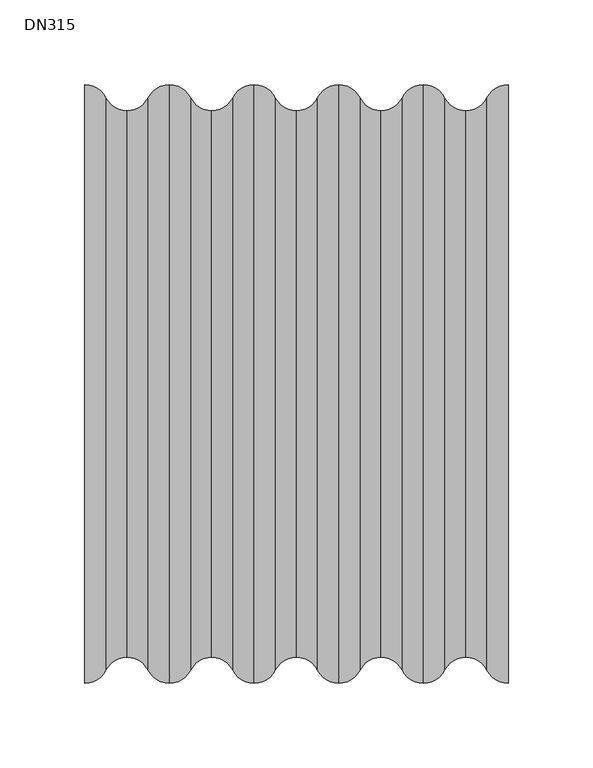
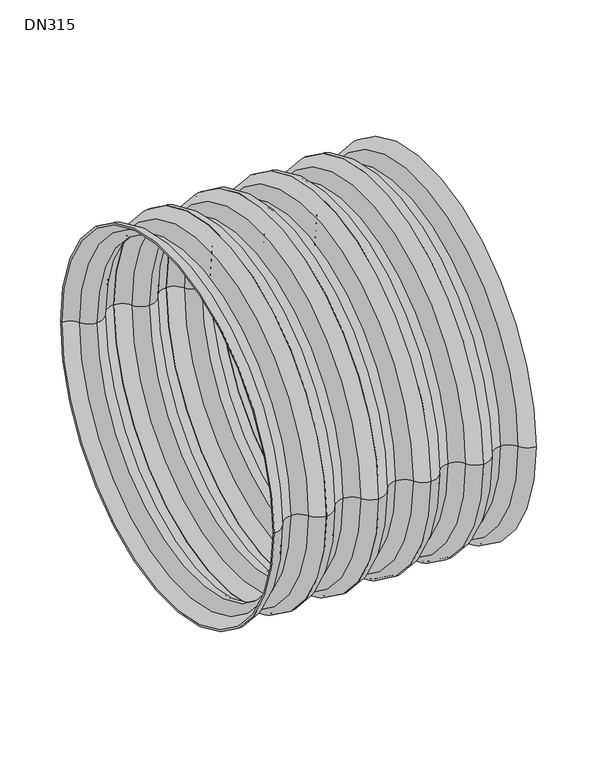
"""IFC4 building model written with IfcOpenShell, lengths in millimetres: pipe fitting geometry, NLRS-90-PIF_Z_DO_NOT_USE_Wavin PVC Buitenriolering Schachtbuis (Nested) : DN315."""

from ifc_helpers import new_model, si_unit, point, frame, origin, place, context, project, spatial, circle_curve, ellipse_curve, trimmed, source, transform, mapped, element, save
from ifc_brep_helpers import plane_surface, revolved_surface, advanced_brep


def dn315_d1f62dcb(model_context):
    return source(origin(), model_context, "Body", "AdvancedBrep", [
        advanced_brep(
        [(300.0, -176.5, 0.0), (300.0, 176.5, 0.0), (312.5, 168.85, 0.0), (312.5, -168.85, 0.0), (300.0, -174.8, 0.0), (300.0, 174.8, 0.0), (312.5, -167.15, 0.0), (312.5, 167.15, 0.0), (325.0, -159.5, 0.0), (325.0, 159.5, 0.0), (337.5, -167.15, 0.0), (337.5, 167.15, 0.0), (350.0, -174.8, 0.0), (350.0, 174.8, 0.0), (350.0, -176.5, 0.0), (350.0, 176.5, 0.0), (337.5, -168.85, 0.0), (337.5, 168.85, 0.0), (325.0, -161.2, 0.0), (325.0, 161.2, 0.0)],
        [
            (0, 1, circle_curve(frame((300.0, 0.0, 0.0), z_axis=(1.0, 0.0, 0.0), x_axis=(0.0, 1.0, 0.0)), 176.5)),
            (1, 2, circle_curve(frame((300.0, 162.4625817, 0.0), z_axis=(0.0, 0.0, -1.0), x_axis=(1.0, 0.0, 0.0)), 14.0374183)),
            (2, 3, circle_curve(frame((312.5, 0.0, 0.0), z_axis=(-1.0, 0.0, 0.0), x_axis=(0.0, 1.0, 0.0)), 168.85)),
            (3, 0, circle_curve(frame((300.0, -162.4625817, 0.0), z_axis=(0.0, 0.0, -1.0), x_axis=(1.0, 0.0, 0.0)), 14.0374183)),
            (1, 0, circle_curve(frame((300.0, 0.0, 0.0), z_axis=(1.0, 0.0, 0.0), x_axis=(0.0, 1.0, 0.0)), 176.5)),
            (3, 2, circle_curve(frame((312.5, 0.0, 0.0), z_axis=(-1.0, 0.0, 0.0), x_axis=(0.0, 1.0, 0.0)), 168.85)),
            (4, 5, circle_curve(frame((300.0, 0.0, 0.0), z_axis=(1.0, 0.0, 0.0), x_axis=(0.0, 1.0, 0.0)), 174.8)),
            (5, 1),
            (0, 4),
            (5, 4, circle_curve(frame((300.0, 0.0, 0.0), z_axis=(1.0, 0.0, 0.0), x_axis=(0.0, 1.0, 0.0)), 174.8)),
            (6, 7, circle_curve(frame((312.5, 0.0, 0.0), z_axis=(1.0, 0.0, 0.0), x_axis=(0.0, 1.0, 0.0)), 167.15)),
            (7, 5, circle_curve(frame((300.0, 160.7625817, 0.0), z_axis=(0.0, 0.0, 1.0), x_axis=(1.0, 0.0, 0.0)), 14.0374183)),
            (4, 6, circle_curve(frame((300.0, -160.7625817, 0.0), z_axis=(0.0, 0.0, 1.0), x_axis=(1.0, 0.0, 0.0)), 14.0374183)),
            (7, 6, circle_curve(frame((312.5, 0.0, 0.0), z_axis=(1.0, 0.0, 0.0), x_axis=(0.0, 1.0, 0.0)), 167.15)),
            (8, 9, circle_curve(frame((325.0, 0.0, 0.0), z_axis=(1.0, 0.0, 0.0), x_axis=(0.0, 1.0, 0.0)), 159.5)),
            (9, 7, circle_curve(frame((325.0, 173.5374183, 0.0), z_axis=(0.0, 0.0, -1.0), x_axis=(1.0, 0.0, 0.0)), 14.0374183)),
            (6, 8, circle_curve(frame((325.0, -173.5374183, 0.0), z_axis=(0.0, 0.0, -1.0), x_axis=(1.0, 0.0, 0.0)), 14.0374183)),
            (9, 8, circle_curve(frame((325.0, 0.0, 0.0), z_axis=(1.0, 0.0, 0.0), x_axis=(0.0, 1.0, 0.0)), 159.5)),
            (10, 11, circle_curve(frame((337.5, 0.0, 0.0), z_axis=(1.0, 0.0, 0.0), x_axis=(0.0, 1.0, 0.0)), 167.15)),
            (11, 9, circle_curve(frame((325.0, 173.5374183, 0.0), z_axis=(0.0, 0.0, -1.0), x_axis=(1.0, 0.0, 0.0)), 14.0374183)),
            (8, 10, circle_curve(frame((325.0, -173.5374183, 0.0), z_axis=(0.0, 0.0, -1.0), x_axis=(1.0, 0.0, 0.0)), 14.0374183)),
            (11, 10, circle_curve(frame((337.5, 0.0, 0.0), z_axis=(1.0, 0.0, 0.0), x_axis=(0.0, 1.0, 0.0)), 167.15)),
            (12, 13, circle_curve(frame((350.0, 0.0, 0.0), z_axis=(1.0, 0.0, 0.0), x_axis=(0.0, 1.0, 0.0)), 174.8)),
            (13, 11, circle_curve(frame((350.0, 160.7625817, 0.0), z_axis=(0.0, 0.0, 1.0), x_axis=(1.0, 0.0, 0.0)), 14.0374183)),
            (10, 12, circle_curve(frame((350.0, -160.7625817, 0.0), z_axis=(0.0, 0.0, 1.0), x_axis=(1.0, 0.0, 0.0)), 14.0374183)),
            (13, 12, circle_curve(frame((350.0, 0.0, 0.0), z_axis=(1.0, 0.0, 0.0), x_axis=(0.0, 1.0, 0.0)), 174.8)),
            (14, 15, circle_curve(frame((350.0, 0.0, 0.0), z_axis=(1.0, 0.0, 0.0), x_axis=(0.0, 1.0, 0.0)), 176.5)),
            (15, 13),
            (12, 14),
            (15, 14, circle_curve(frame((350.0, 0.0, 0.0), z_axis=(1.0, 0.0, 0.0), x_axis=(0.0, 1.0, 0.0)), 176.5)),
            (16, 17, circle_curve(frame((337.5, 0.0, 0.0), z_axis=(1.0, 0.0, 0.0), x_axis=(0.0, 1.0, 0.0)), 168.85)),
            (17, 15, circle_curve(frame((350.0, 162.4625817, 0.0), z_axis=(0.0, 0.0, -1.0), x_axis=(1.0, 0.0, 0.0)), 14.0374183)),
            (14, 16, circle_curve(frame((350.0, -162.4625817, 0.0), z_axis=(0.0, 0.0, -1.0), x_axis=(1.0, 0.0, 0.0)), 14.0374183)),
            (17, 16, circle_curve(frame((337.5, 0.0, 0.0), z_axis=(1.0, 0.0, 0.0), x_axis=(0.0, 1.0, 0.0)), 168.85)),
            (18, 19, circle_curve(frame((325.0, 0.0, 0.0), z_axis=(1.0, 0.0, 0.0), x_axis=(0.0, 1.0, 0.0)), 161.2)),
            (19, 17, circle_curve(frame((325.0, 175.2374183, 0.0), z_axis=(0.0, 0.0, 1.0), x_axis=(1.0, 0.0, 0.0)), 14.0374183)),
            (16, 18, circle_curve(frame((325.0, -175.2374183, 0.0), z_axis=(0.0, 0.0, 1.0), x_axis=(1.0, 0.0, 0.0)), 14.0374183)),
            (19, 18, circle_curve(frame((325.0, 0.0, 0.0), z_axis=(1.0, 0.0, 0.0), x_axis=(0.0, 1.0, 0.0)), 161.2)),
            (2, 19, circle_curve(frame((325.0, 175.2374183, 0.0), z_axis=(0.0, 0.0, 1.0), x_axis=(1.0, 0.0, 0.0)), 14.0374183)),
            (18, 3, circle_curve(frame((325.0, -175.2374183, 0.0), z_axis=(0.0, 0.0, 1.0), x_axis=(1.0, 0.0, 0.0)), 14.0374183)),
        ],
        [
            revolved_surface(trimmed(ellipse_curve(frame((300.0, 162.4625817, 0.0), z_axis=(0.0, 0.0, 1.0), x_axis=(1.0, 0.0, 0.0)), 14.0374183, 14.0374183), [point((312.5, 168.85, 0.0))], [point((300.0, 176.5, 0.0))], True, "CARTESIAN"), (250.0, 0.0, 0.0), (-1.0, 0.0, 0.0)),
            plane_surface(frame((300.0, 0.0, 0.0), z_axis=(-1.0, 0.0, 0.0), x_axis=(0.0, 1.0, 0.0))),
            revolved_surface(trimmed(ellipse_curve(frame((300.0, 160.7625817, 0.0), z_axis=(0.0, 0.0, -1.0), x_axis=(1.0, 0.0, 0.0)), 14.0374183, 14.0374183), [point((300.0, 174.8, 0.0))], [point((312.5, 167.15, 0.0))], True, "CARTESIAN"), (250.0, 0.0, 0.0), (-1.0, 0.0, 0.0)),
            revolved_surface(trimmed(ellipse_curve(frame((325.0, 173.5374183, 0.0), z_axis=(0.0, 0.0, 1.0), x_axis=(1.0, 0.0, 0.0)), 14.0374183, 14.0374183), [point((312.5, 167.15, 0.0))], [point((325.0, 159.5, 0.0))], True, "CARTESIAN"), (250.0, 0.0, 0.0), (-1.0, 0.0, 0.0)),
            revolved_surface(trimmed(ellipse_curve(frame((325.0, 173.5374183, 0.0), z_axis=(0.0, 0.0, 1.0), x_axis=(1.0, 0.0, 0.0)), 14.0374183, 14.0374183), [point((325.0, 159.5, 0.0))], [point((337.5, 167.15, 0.0))], True, "CARTESIAN"), (250.0, 0.0, 0.0), (-1.0, 0.0, 0.0)),
            revolved_surface(trimmed(ellipse_curve(frame((350.0, 160.7625817, 0.0), z_axis=(0.0, 0.0, -1.0), x_axis=(1.0, 0.0, 0.0)), 14.0374183, 14.0374183), [point((337.5, 167.15, 0.0))], [point((350.0, 174.8, 0.0))], True, "CARTESIAN"), (250.0, 0.0, 0.0), (-1.0, 0.0, 0.0)),
            plane_surface(frame((350.0, 0.0, 0.0), z_axis=(1.0, 0.0, 0.0), x_axis=(0.0, 1.0, 0.0))),
            revolved_surface(trimmed(ellipse_curve(frame((350.0, 162.4625817, 0.0), z_axis=(0.0, 0.0, 1.0), x_axis=(1.0, 0.0, 0.0)), 14.0374183, 14.0374183), [point((350.0, 176.5, 0.0))], [point((337.5, 168.85, 0.0))], True, "CARTESIAN"), (250.0, 0.0, 0.0), (-1.0, 0.0, 0.0)),
            revolved_surface(trimmed(ellipse_curve(frame((325.0, 175.2374183, 0.0), z_axis=(0.0, 0.0, -1.0), x_axis=(1.0, 0.0, 0.0)), 14.0374183, 14.0374183), [point((337.5, 168.85, 0.0))], [point((325.0, 161.2, 0.0))], True, "CARTESIAN"), (250.0, 0.0, 0.0), (-1.0, 0.0, 0.0)),
            revolved_surface(trimmed(ellipse_curve(frame((325.0, 175.2374183, 0.0), z_axis=(0.0, 0.0, -1.0), x_axis=(1.0, 0.0, 0.0)), 14.0374183, 14.0374183), [point((325.0, 161.2, 0.0))], [point((312.5, 168.85, 0.0))], True, "CARTESIAN"), (250.0, 0.0, 0.0), (-1.0, 0.0, 0.0)),
        ],
        [
            (0, [[1, 2, 3, 4]]),
            (0, [[5, -4, 6, -2]]),
            (1, [[7, 8, -1, 9]]),
            (1, [[10, -9, -5, -8]]),
            (2, [[11, 12, -7, 13]]),
            (2, [[14, -13, -10, -12]]),
            (3, [[15, 16, -11, 17]]),
            (3, [[18, -17, -14, -16]]),
            (4, [[19, 20, -15, 21]]),
            (4, [[22, -21, -18, -20]]),
            (5, [[23, 24, -19, 25]]),
            (5, [[26, -25, -22, -24]]),
            (6, [[27, 28, -23, 29]]),
            (6, [[30, -29, -26, -28]]),
            (7, [[31, 32, -27, 33]]),
            (7, [[34, -33, -30, -32]]),
            (8, [[35, 36, -31, 37]]),
            (8, [[38, -37, -34, -36]]),
            (9, [[-3, 39, -35, 40]]),
            (9, [[-6, -40, -38, -39]]),
        ],
    ),
        advanced_brep(
        [(250.0, -176.5, 0.0), (250.0, 176.5, 0.0), (262.5, 168.85, 0.0), (262.5, -168.85, 0.0), (250.0, -174.8, 0.0), (250.0, 174.8, 0.0), (262.5, -167.15, 0.0), (262.5, 167.15, 0.0), (275.0, -159.5, 0.0), (275.0, 159.5, 0.0), (287.5, -167.15, 0.0), (287.5, 167.15, 0.0), (300.0, -174.8, 0.0), (300.0, 174.8, 0.0), (300.0, -176.5, 0.0), (300.0, 176.5, 0.0), (287.5, -168.85, 0.0), (287.5, 168.85, 0.0), (275.0, -161.2, 0.0), (275.0, 161.2, 0.0)],
        [
            (0, 1, circle_curve(frame((250.0, 0.0, 0.0), z_axis=(1.0, 0.0, 0.0), x_axis=(0.0, 1.0, 0.0)), 176.5)),
            (1, 2, circle_curve(frame((250.0, 162.4625817, 0.0), z_axis=(0.0, 0.0, -1.0), x_axis=(1.0, 0.0, 0.0)), 14.0374183)),
            (2, 3, circle_curve(frame((262.5, 0.0, 0.0), z_axis=(-1.0, 0.0, 0.0), x_axis=(0.0, 1.0, 0.0)), 168.85)),
            (3, 0, circle_curve(frame((250.0, -162.4625817, 0.0), z_axis=(0.0, 0.0, -1.0), x_axis=(1.0, 0.0, 0.0)), 14.0374183)),
            (1, 0, circle_curve(frame((250.0, 0.0, 0.0), z_axis=(1.0, 0.0, 0.0), x_axis=(0.0, 1.0, 0.0)), 176.5)),
            (3, 2, circle_curve(frame((262.5, 0.0, 0.0), z_axis=(-1.0, 0.0, 0.0), x_axis=(0.0, 1.0, 0.0)), 168.85)),
            (4, 5, circle_curve(frame((250.0, 0.0, 0.0), z_axis=(1.0, 0.0, 0.0), x_axis=(0.0, 1.0, 0.0)), 174.8)),
            (5, 1),
            (0, 4),
            (5, 4, circle_curve(frame((250.0, 0.0, 0.0), z_axis=(1.0, 0.0, 0.0), x_axis=(0.0, 1.0, 0.0)), 174.8)),
            (6, 7, circle_curve(frame((262.5, 0.0, 0.0), z_axis=(1.0, 0.0, 0.0), x_axis=(0.0, 1.0, 0.0)), 167.15)),
            (7, 5, circle_curve(frame((250.0, 160.7625817, 0.0), z_axis=(0.0, 0.0, 1.0), x_axis=(1.0, 0.0, 0.0)), 14.0374183)),
            (4, 6, circle_curve(frame((250.0, -160.7625817, 0.0), z_axis=(0.0, 0.0, 1.0), x_axis=(1.0, 0.0, 0.0)), 14.0374183)),
            (7, 6, circle_curve(frame((262.5, 0.0, 0.0), z_axis=(1.0, 0.0, 0.0), x_axis=(0.0, 1.0, 0.0)), 167.15)),
            (8, 9, circle_curve(frame((275.0, 0.0, 0.0), z_axis=(1.0, 0.0, 0.0), x_axis=(0.0, 1.0, 0.0)), 159.5)),
            (9, 7, circle_curve(frame((275.0, 173.5374183, 0.0), z_axis=(0.0, 0.0, -1.0), x_axis=(1.0, 0.0, 0.0)), 14.0374183)),
            (6, 8, circle_curve(frame((275.0, -173.5374183, 0.0), z_axis=(0.0, 0.0, -1.0), x_axis=(1.0, 0.0, 0.0)), 14.0374183)),
            (9, 8, circle_curve(frame((275.0, 0.0, 0.0), z_axis=(1.0, 0.0, 0.0), x_axis=(0.0, 1.0, 0.0)), 159.5)),
            (10, 11, circle_curve(frame((287.5, 0.0, 0.0), z_axis=(1.0, 0.0, 0.0), x_axis=(0.0, 1.0, 0.0)), 167.15)),
            (11, 9, circle_curve(frame((275.0, 173.5374183, 0.0), z_axis=(0.0, 0.0, -1.0), x_axis=(1.0, 0.0, 0.0)), 14.0374183)),
            (8, 10, circle_curve(frame((275.0, -173.5374183, 0.0), z_axis=(0.0, 0.0, -1.0), x_axis=(1.0, 0.0, 0.0)), 14.0374183)),
            (11, 10, circle_curve(frame((287.5, 0.0, 0.0), z_axis=(1.0, 0.0, 0.0), x_axis=(0.0, 1.0, 0.0)), 167.15)),
            (12, 13, circle_curve(frame((300.0, 0.0, 0.0), z_axis=(1.0, 0.0, 0.0), x_axis=(0.0, 1.0, 0.0)), 174.8)),
            (13, 11, circle_curve(frame((300.0, 160.7625817, 0.0), z_axis=(0.0, 0.0, 1.0), x_axis=(1.0, 0.0, 0.0)), 14.0374183)),
            (10, 12, circle_curve(frame((300.0, -160.7625817, 0.0), z_axis=(0.0, 0.0, 1.0), x_axis=(1.0, 0.0, 0.0)), 14.0374183)),
            (13, 12, circle_curve(frame((300.0, 0.0, 0.0), z_axis=(1.0, 0.0, 0.0), x_axis=(0.0, 1.0, 0.0)), 174.8)),
            (14, 15, circle_curve(frame((300.0, 0.0, 0.0), z_axis=(1.0, 0.0, 0.0), x_axis=(0.0, 1.0, 0.0)), 176.5)),
            (15, 13),
            (12, 14),
            (15, 14, circle_curve(frame((300.0, 0.0, 0.0), z_axis=(1.0, 0.0, 0.0), x_axis=(0.0, 1.0, 0.0)), 176.5)),
            (16, 17, circle_curve(frame((287.5, 0.0, 0.0), z_axis=(1.0, 0.0, 0.0), x_axis=(0.0, 1.0, 0.0)), 168.85)),
            (17, 15, circle_curve(frame((300.0, 162.4625817, 0.0), z_axis=(0.0, 0.0, -1.0), x_axis=(1.0, 0.0, 0.0)), 14.0374183)),
            (14, 16, circle_curve(frame((300.0, -162.4625817, 0.0), z_axis=(0.0, 0.0, -1.0), x_axis=(1.0, 0.0, 0.0)), 14.0374183)),
            (17, 16, circle_curve(frame((287.5, 0.0, 0.0), z_axis=(1.0, 0.0, 0.0), x_axis=(0.0, 1.0, 0.0)), 168.85)),
            (18, 19, circle_curve(frame((275.0, 0.0, 0.0), z_axis=(1.0, 0.0, 0.0), x_axis=(0.0, 1.0, 0.0)), 161.2)),
            (19, 17, circle_curve(frame((275.0, 175.2374183, 0.0), z_axis=(0.0, 0.0, 1.0), x_axis=(1.0, 0.0, 0.0)), 14.0374183)),
            (16, 18, circle_curve(frame((275.0, -175.2374183, 0.0), z_axis=(0.0, 0.0, 1.0), x_axis=(1.0, 0.0, 0.0)), 14.0374183)),
            (19, 18, circle_curve(frame((275.0, 0.0, 0.0), z_axis=(1.0, 0.0, 0.0), x_axis=(0.0, 1.0, 0.0)), 161.2)),
            (2, 19, circle_curve(frame((275.0, 175.2374183, 0.0), z_axis=(0.0, 0.0, 1.0), x_axis=(1.0, 0.0, 0.0)), 14.0374183)),
            (18, 3, circle_curve(frame((275.0, -175.2374183, 0.0), z_axis=(0.0, 0.0, 1.0), x_axis=(1.0, 0.0, 0.0)), 14.0374183)),
        ],
        [
            revolved_surface(trimmed(ellipse_curve(frame((250.0, 162.4625817, 0.0), z_axis=(0.0, 0.0, 1.0), x_axis=(1.0, 0.0, 0.0)), 14.0374183, 14.0374183), [point((262.5, 168.85, 0.0))], [point((250.0, 176.5, 0.0))], True, "CARTESIAN"), (200.0, 0.0, 0.0), (-1.0, 0.0, 0.0)),
            plane_surface(frame((250.0, 0.0, 0.0), z_axis=(-1.0, 0.0, 0.0), x_axis=(0.0, 1.0, 0.0))),
            revolved_surface(trimmed(ellipse_curve(frame((250.0, 160.7625817, 0.0), z_axis=(0.0, 0.0, -1.0), x_axis=(1.0, 0.0, 0.0)), 14.0374183, 14.0374183), [point((250.0, 174.8, 0.0))], [point((262.5, 167.15, 0.0))], True, "CARTESIAN"), (200.0, 0.0, 0.0), (-1.0, 0.0, 0.0)),
            revolved_surface(trimmed(ellipse_curve(frame((275.0, 173.5374183, 0.0), z_axis=(0.0, 0.0, 1.0), x_axis=(1.0, 0.0, 0.0)), 14.0374183, 14.0374183), [point((262.5, 167.15, 0.0))], [point((275.0, 159.5, 0.0))], True, "CARTESIAN"), (200.0, 0.0, 0.0), (-1.0, 0.0, 0.0)),
            revolved_surface(trimmed(ellipse_curve(frame((275.0, 173.5374183, 0.0), z_axis=(0.0, 0.0, 1.0), x_axis=(1.0, 0.0, 0.0)), 14.0374183, 14.0374183), [point((275.0, 159.5, 0.0))], [point((287.5, 167.15, 0.0))], True, "CARTESIAN"), (200.0, 0.0, 0.0), (-1.0, 0.0, 0.0)),
            revolved_surface(trimmed(ellipse_curve(frame((300.0, 160.7625817, 0.0), z_axis=(0.0, 0.0, -1.0), x_axis=(1.0, 0.0, 0.0)), 14.0374183, 14.0374183), [point((287.5, 167.15, 0.0))], [point((300.0, 174.8, 0.0))], True, "CARTESIAN"), (200.0, 0.0, 0.0), (-1.0, 0.0, 0.0)),
            plane_surface(frame((300.0, 0.0, 0.0), z_axis=(1.0, 0.0, 0.0), x_axis=(0.0, 1.0, 0.0))),
            revolved_surface(trimmed(ellipse_curve(frame((300.0, 162.4625817, 0.0), z_axis=(0.0, 0.0, 1.0), x_axis=(1.0, 0.0, 0.0)), 14.0374183, 14.0374183), [point((300.0, 176.5, 0.0))], [point((287.5, 168.85, 0.0))], True, "CARTESIAN"), (200.0, 0.0, 0.0), (-1.0, 0.0, 0.0)),
            revolved_surface(trimmed(ellipse_curve(frame((275.0, 175.2374183, 0.0), z_axis=(0.0, 0.0, -1.0), x_axis=(1.0, 0.0, 0.0)), 14.0374183, 14.0374183), [point((287.5, 168.85, 0.0))], [point((275.0, 161.2, 0.0))], True, "CARTESIAN"), (200.0, 0.0, 0.0), (-1.0, 0.0, 0.0)),
            revolved_surface(trimmed(ellipse_curve(frame((275.0, 175.2374183, 0.0), z_axis=(0.0, 0.0, -1.0), x_axis=(1.0, 0.0, 0.0)), 14.0374183, 14.0374183), [point((275.0, 161.2, 0.0))], [point((262.5, 168.85, 0.0))], True, "CARTESIAN"), (200.0, 0.0, 0.0), (-1.0, 0.0, 0.0)),
        ],
        [
            (0, [[1, 2, 3, 4]]),
            (0, [[5, -4, 6, -2]]),
            (1, [[7, 8, -1, 9]]),
            (1, [[10, -9, -5, -8]]),
            (2, [[11, 12, -7, 13]]),
            (2, [[14, -13, -10, -12]]),
            (3, [[15, 16, -11, 17]]),
            (3, [[18, -17, -14, -16]]),
            (4, [[19, 20, -15, 21]]),
            (4, [[22, -21, -18, -20]]),
            (5, [[23, 24, -19, 25]]),
            (5, [[26, -25, -22, -24]]),
            (6, [[27, 28, -23, 29]]),
            (6, [[30, -29, -26, -28]]),
            (7, [[31, 32, -27, 33]]),
            (7, [[34, -33, -30, -32]]),
            (8, [[35, 36, -31, 37]]),
            (8, [[38, -37, -34, -36]]),
            (9, [[-3, 39, -35, 40]]),
            (9, [[-6, -40, -38, -39]]),
        ],
    ),
        advanced_brep(
        [(200.0, -176.5, 0.0), (200.0, 176.5, 0.0), (212.5, 168.85, 0.0), (212.5, -168.85, 0.0), (200.0, -174.8, 0.0), (200.0, 174.8, 0.0), (212.5, -167.15, 0.0), (212.5, 167.15, 0.0), (225.0, -159.5, 0.0), (225.0, 159.5, 0.0), (237.5, -167.15, 0.0), (237.5, 167.15, 0.0), (250.0, -174.8, 0.0), (250.0, 174.8, 0.0), (250.0, -176.5, 0.0), (250.0, 176.5, 0.0), (237.5, -168.85, 0.0), (237.5, 168.85, 0.0), (225.0, -161.2, 0.0), (225.0, 161.2, 0.0)],
        [
            (0, 1, circle_curve(frame((200.0, 0.0, 0.0), z_axis=(1.0, 0.0, 0.0), x_axis=(0.0, 1.0, 0.0)), 176.5)),
            (1, 2, circle_curve(frame((200.0, 162.4625817, 0.0), z_axis=(0.0, 0.0, -1.0), x_axis=(1.0, 0.0, 0.0)), 14.0374183)),
            (2, 3, circle_curve(frame((212.5, 0.0, 0.0), z_axis=(-1.0, 0.0, 0.0), x_axis=(0.0, 1.0, 0.0)), 168.85)),
            (3, 0, circle_curve(frame((200.0, -162.4625817, 0.0), z_axis=(0.0, 0.0, -1.0), x_axis=(1.0, 0.0, 0.0)), 14.0374183)),
            (1, 0, circle_curve(frame((200.0, 0.0, 0.0), z_axis=(1.0, 0.0, 0.0), x_axis=(0.0, 1.0, 0.0)), 176.5)),
            (3, 2, circle_curve(frame((212.5, 0.0, 0.0), z_axis=(-1.0, 0.0, 0.0), x_axis=(0.0, 1.0, 0.0)), 168.85)),
            (4, 5, circle_curve(frame((200.0, 0.0, 0.0), z_axis=(1.0, 0.0, 0.0), x_axis=(0.0, 1.0, 0.0)), 174.8)),
            (5, 1),
            (0, 4),
            (5, 4, circle_curve(frame((200.0, 0.0, 0.0), z_axis=(1.0, 0.0, 0.0), x_axis=(0.0, 1.0, 0.0)), 174.8)),
            (6, 7, circle_curve(frame((212.5, 0.0, 0.0), z_axis=(1.0, 0.0, 0.0), x_axis=(0.0, 1.0, 0.0)), 167.15)),
            (7, 5, circle_curve(frame((200.0, 160.7625817, 0.0), z_axis=(0.0, 0.0, 1.0), x_axis=(1.0, 0.0, 0.0)), 14.0374183)),
            (4, 6, circle_curve(frame((200.0, -160.7625817, 0.0), z_axis=(0.0, 0.0, 1.0), x_axis=(1.0, 0.0, 0.0)), 14.0374183)),
            (7, 6, circle_curve(frame((212.5, 0.0, 0.0), z_axis=(1.0, 0.0, 0.0), x_axis=(0.0, 1.0, 0.0)), 167.15)),
            (8, 9, circle_curve(frame((225.0, 0.0, 0.0), z_axis=(1.0, 0.0, 0.0), x_axis=(0.0, 1.0, 0.0)), 159.5)),
            (9, 7, circle_curve(frame((225.0, 173.5374183, 0.0), z_axis=(0.0, 0.0, -1.0), x_axis=(1.0, 0.0, 0.0)), 14.0374183)),
            (6, 8, circle_curve(frame((225.0, -173.5374183, 0.0), z_axis=(0.0, 0.0, -1.0), x_axis=(1.0, 0.0, 0.0)), 14.0374183)),
            (9, 8, circle_curve(frame((225.0, 0.0, 0.0), z_axis=(1.0, 0.0, 0.0), x_axis=(0.0, 1.0, 0.0)), 159.5)),
            (10, 11, circle_curve(frame((237.5, 0.0, 0.0), z_axis=(1.0, 0.0, 0.0), x_axis=(0.0, 1.0, 0.0)), 167.15)),
            (11, 9, circle_curve(frame((225.0, 173.5374183, 0.0), z_axis=(0.0, 0.0, -1.0), x_axis=(1.0, 0.0, 0.0)), 14.0374183)),
            (8, 10, circle_curve(frame((225.0, -173.5374183, 0.0), z_axis=(0.0, 0.0, -1.0), x_axis=(1.0, 0.0, 0.0)), 14.0374183)),
            (11, 10, circle_curve(frame((237.5, 0.0, 0.0), z_axis=(1.0, 0.0, 0.0), x_axis=(0.0, 1.0, 0.0)), 167.15)),
            (12, 13, circle_curve(frame((250.0, 0.0, 0.0), z_axis=(1.0, 0.0, 0.0), x_axis=(0.0, 1.0, 0.0)), 174.8)),
            (13, 11, circle_curve(frame((250.0, 160.7625817, 0.0), z_axis=(0.0, 0.0, 1.0), x_axis=(1.0, 0.0, 0.0)), 14.0374183)),
            (10, 12, circle_curve(frame((250.0, -160.7625817, 0.0), z_axis=(0.0, 0.0, 1.0), x_axis=(1.0, 0.0, 0.0)), 14.0374183)),
            (13, 12, circle_curve(frame((250.0, 0.0, 0.0), z_axis=(1.0, 0.0, 0.0), x_axis=(0.0, 1.0, 0.0)), 174.8)),
            (14, 15, circle_curve(frame((250.0, 0.0, 0.0), z_axis=(1.0, 0.0, 0.0), x_axis=(0.0, 1.0, 0.0)), 176.5)),
            (15, 13),
            (12, 14),
            (15, 14, circle_curve(frame((250.0, 0.0, 0.0), z_axis=(1.0, 0.0, 0.0), x_axis=(0.0, 1.0, 0.0)), 176.5)),
            (16, 17, circle_curve(frame((237.5, 0.0, 0.0), z_axis=(1.0, 0.0, 0.0), x_axis=(0.0, 1.0, 0.0)), 168.85)),
            (17, 15, circle_curve(frame((250.0, 162.4625817, 0.0), z_axis=(0.0, 0.0, -1.0), x_axis=(1.0, 0.0, 0.0)), 14.0374183)),
            (14, 16, circle_curve(frame((250.0, -162.4625817, 0.0), z_axis=(0.0, 0.0, -1.0), x_axis=(1.0, 0.0, 0.0)), 14.0374183)),
            (17, 16, circle_curve(frame((237.5, 0.0, 0.0), z_axis=(1.0, 0.0, 0.0), x_axis=(0.0, 1.0, 0.0)), 168.85)),
            (18, 19, circle_curve(frame((225.0, 0.0, 0.0), z_axis=(1.0, 0.0, 0.0), x_axis=(0.0, 1.0, 0.0)), 161.2)),
            (19, 17, circle_curve(frame((225.0, 175.2374183, 0.0), z_axis=(0.0, 0.0, 1.0), x_axis=(1.0, 0.0, 0.0)), 14.0374183)),
            (16, 18, circle_curve(frame((225.0, -175.2374183, 0.0), z_axis=(0.0, 0.0, 1.0), x_axis=(1.0, 0.0, 0.0)), 14.0374183)),
            (19, 18, circle_curve(frame((225.0, 0.0, 0.0), z_axis=(1.0, 0.0, 0.0), x_axis=(0.0, 1.0, 0.0)), 161.2)),
            (2, 19, circle_curve(frame((225.0, 175.2374183, 0.0), z_axis=(0.0, 0.0, 1.0), x_axis=(1.0, 0.0, 0.0)), 14.0374183)),
            (18, 3, circle_curve(frame((225.0, -175.2374183, 0.0), z_axis=(0.0, 0.0, 1.0), x_axis=(1.0, 0.0, 0.0)), 14.0374183)),
        ],
        [
            revolved_surface(trimmed(ellipse_curve(frame((200.0, 162.4625817, 0.0), z_axis=(0.0, 0.0, 1.0), x_axis=(1.0, 0.0, 0.0)), 14.0374183, 14.0374183), [point((212.5, 168.85, 0.0))], [point((200.0, 176.5, 0.0))], True, "CARTESIAN"), (150.0, 0.0, 0.0), (-1.0, 0.0, 0.0)),
            plane_surface(frame((200.0, 0.0, 0.0), z_axis=(-1.0, 0.0, 0.0), x_axis=(0.0, 1.0, 0.0))),
            revolved_surface(trimmed(ellipse_curve(frame((200.0, 160.7625817, 0.0), z_axis=(0.0, 0.0, -1.0), x_axis=(1.0, 0.0, 0.0)), 14.0374183, 14.0374183), [point((200.0, 174.8, 0.0))], [point((212.5, 167.15, 0.0))], True, "CARTESIAN"), (150.0, 0.0, 0.0), (-1.0, 0.0, 0.0)),
            revolved_surface(trimmed(ellipse_curve(frame((225.0, 173.5374183, 0.0), z_axis=(0.0, 0.0, 1.0), x_axis=(1.0, 0.0, 0.0)), 14.0374183, 14.0374183), [point((212.5, 167.15, 0.0))], [point((225.0, 159.5, 0.0))], True, "CARTESIAN"), (150.0, 0.0, 0.0), (-1.0, 0.0, 0.0)),
            revolved_surface(trimmed(ellipse_curve(frame((225.0, 173.5374183, 0.0), z_axis=(0.0, 0.0, 1.0), x_axis=(1.0, 0.0, 0.0)), 14.0374183, 14.0374183), [point((225.0, 159.5, 0.0))], [point((237.5, 167.15, 0.0))], True, "CARTESIAN"), (150.0, 0.0, 0.0), (-1.0, 0.0, 0.0)),
            revolved_surface(trimmed(ellipse_curve(frame((250.0, 160.7625817, 0.0), z_axis=(0.0, 0.0, -1.0), x_axis=(1.0, 0.0, 0.0)), 14.0374183, 14.0374183), [point((237.5, 167.15, 0.0))], [point((250.0, 174.8, 0.0))], True, "CARTESIAN"), (150.0, 0.0, 0.0), (-1.0, 0.0, 0.0)),
            plane_surface(frame((250.0, 0.0, 0.0), z_axis=(1.0, 0.0, 0.0), x_axis=(0.0, 1.0, 0.0))),
            revolved_surface(trimmed(ellipse_curve(frame((250.0, 162.4625817, 0.0), z_axis=(0.0, 0.0, 1.0), x_axis=(1.0, 0.0, 0.0)), 14.0374183, 14.0374183), [point((250.0, 176.5, 0.0))], [point((237.5, 168.85, 0.0))], True, "CARTESIAN"), (150.0, 0.0, 0.0), (-1.0, 0.0, 0.0)),
            revolved_surface(trimmed(ellipse_curve(frame((225.0, 175.2374183, 0.0), z_axis=(0.0, 0.0, -1.0), x_axis=(1.0, 0.0, 0.0)), 14.0374183, 14.0374183), [point((237.5, 168.85, 0.0))], [point((225.0, 161.2, 0.0))], True, "CARTESIAN"), (150.0, 0.0, 0.0), (-1.0, 0.0, 0.0)),
            revolved_surface(trimmed(ellipse_curve(frame((225.0, 175.2374183, 0.0), z_axis=(0.0, 0.0, -1.0), x_axis=(1.0, 0.0, 0.0)), 14.0374183, 14.0374183), [point((225.0, 161.2, 0.0))], [point((212.5, 168.85, 0.0))], True, "CARTESIAN"), (150.0, 0.0, 0.0), (-1.0, 0.0, 0.0)),
        ],
        [
            (0, [[1, 2, 3, 4]]),
            (0, [[5, -4, 6, -2]]),
            (1, [[7, 8, -1, 9]]),
            (1, [[10, -9, -5, -8]]),
            (2, [[11, 12, -7, 13]]),
            (2, [[14, -13, -10, -12]]),
            (3, [[15, 16, -11, 17]]),
            (3, [[18, -17, -14, -16]]),
            (4, [[19, 20, -15, 21]]),
            (4, [[22, -21, -18, -20]]),
            (5, [[23, 24, -19, 25]]),
            (5, [[26, -25, -22, -24]]),
            (6, [[27, 28, -23, 29]]),
            (6, [[30, -29, -26, -28]]),
            (7, [[31, 32, -27, 33]]),
            (7, [[34, -33, -30, -32]]),
            (8, [[35, 36, -31, 37]]),
            (8, [[38, -37, -34, -36]]),
            (9, [[-3, 39, -35, 40]]),
            (9, [[-6, -40, -38, -39]]),
        ],
    ),
        advanced_brep(
        [(150.0, -176.5, 0.0), (150.0, 176.5, 0.0), (162.5, 168.85, 0.0), (162.5, -168.85, 0.0), (150.0, -174.8, 0.0), (150.0, 174.8, 0.0), (162.5, -167.15, 0.0), (162.5, 167.15, 0.0), (175.0, -159.5, 0.0), (175.0, 159.5, 0.0), (187.5, -167.15, 0.0), (187.5, 167.15, 0.0), (200.0, -174.8, 0.0), (200.0, 174.8, 0.0), (200.0, -176.5, 0.0), (200.0, 176.5, 0.0), (187.5, -168.85, 0.0), (187.5, 168.85, 0.0), (175.0, -161.2, 0.0), (175.0, 161.2, 0.0)],
        [
            (0, 1, circle_curve(frame((150.0, 0.0, 0.0), z_axis=(1.0, 0.0, 0.0), x_axis=(0.0, 1.0, 0.0)), 176.5)),
            (1, 2, circle_curve(frame((150.0, 162.4625817, 0.0), z_axis=(0.0, 0.0, -1.0), x_axis=(1.0, 0.0, 0.0)), 14.0374183)),
            (2, 3, circle_curve(frame((162.5, 0.0, 0.0), z_axis=(-1.0, 0.0, 0.0), x_axis=(0.0, 1.0, 0.0)), 168.85)),
            (3, 0, circle_curve(frame((150.0, -162.4625817, 0.0), z_axis=(0.0, 0.0, -1.0), x_axis=(1.0, 0.0, 0.0)), 14.0374183)),
            (1, 0, circle_curve(frame((150.0, 0.0, 0.0), z_axis=(1.0, 0.0, 0.0), x_axis=(0.0, 1.0, 0.0)), 176.5)),
            (3, 2, circle_curve(frame((162.5, 0.0, 0.0), z_axis=(-1.0, 0.0, 0.0), x_axis=(0.0, 1.0, 0.0)), 168.85)),
            (4, 5, circle_curve(frame((150.0, 0.0, 0.0), z_axis=(1.0, 0.0, 0.0), x_axis=(0.0, 1.0, 0.0)), 174.8)),
            (5, 1),
            (0, 4),
            (5, 4, circle_curve(frame((150.0, 0.0, 0.0), z_axis=(1.0, 0.0, 0.0), x_axis=(0.0, 1.0, 0.0)), 174.8)),
            (6, 7, circle_curve(frame((162.5, 0.0, 0.0), z_axis=(1.0, 0.0, 0.0), x_axis=(0.0, 1.0, 0.0)), 167.15)),
            (7, 5, circle_curve(frame((150.0, 160.7625817, 0.0), z_axis=(0.0, 0.0, 1.0), x_axis=(1.0, 0.0, 0.0)), 14.0374183)),
            (4, 6, circle_curve(frame((150.0, -160.7625817, 0.0), z_axis=(0.0, 0.0, 1.0), x_axis=(1.0, 0.0, 0.0)), 14.0374183)),
            (7, 6, circle_curve(frame((162.5, 0.0, 0.0), z_axis=(1.0, 0.0, 0.0), x_axis=(0.0, 1.0, 0.0)), 167.15)),
            (8, 9, circle_curve(frame((175.0, 0.0, 0.0), z_axis=(1.0, 0.0, 0.0), x_axis=(0.0, 1.0, 0.0)), 159.5)),
            (9, 7, circle_curve(frame((175.0, 173.5374183, 0.0), z_axis=(0.0, 0.0, -1.0), x_axis=(1.0, 0.0, 0.0)), 14.0374183)),
            (6, 8, circle_curve(frame((175.0, -173.5374183, 0.0), z_axis=(0.0, 0.0, -1.0), x_axis=(1.0, 0.0, 0.0)), 14.0374183)),
            (9, 8, circle_curve(frame((175.0, 0.0, 0.0), z_axis=(1.0, 0.0, 0.0), x_axis=(0.0, 1.0, 0.0)), 159.5)),
            (10, 11, circle_curve(frame((187.5, 0.0, 0.0), z_axis=(1.0, 0.0, 0.0), x_axis=(0.0, 1.0, 0.0)), 167.15)),
            (11, 9, circle_curve(frame((175.0, 173.5374183, 0.0), z_axis=(0.0, 0.0, -1.0), x_axis=(1.0, 0.0, 0.0)), 14.0374183)),
            (8, 10, circle_curve(frame((175.0, -173.5374183, 0.0), z_axis=(0.0, 0.0, -1.0), x_axis=(1.0, 0.0, 0.0)), 14.0374183)),
            (11, 10, circle_curve(frame((187.5, 0.0, 0.0), z_axis=(1.0, 0.0, 0.0), x_axis=(0.0, 1.0, 0.0)), 167.15)),
            (12, 13, circle_curve(frame((200.0, 0.0, 0.0), z_axis=(1.0, 0.0, 0.0), x_axis=(0.0, 1.0, 0.0)), 174.8)),
            (13, 11, circle_curve(frame((200.0, 160.7625817, 0.0), z_axis=(0.0, 0.0, 1.0), x_axis=(1.0, 0.0, 0.0)), 14.0374183)),
            (10, 12, circle_curve(frame((200.0, -160.7625817, 0.0), z_axis=(0.0, 0.0, 1.0), x_axis=(1.0, 0.0, 0.0)), 14.0374183)),
            (13, 12, circle_curve(frame((200.0, 0.0, 0.0), z_axis=(1.0, 0.0, 0.0), x_axis=(0.0, 1.0, 0.0)), 174.8)),
            (14, 15, circle_curve(frame((200.0, 0.0, 0.0), z_axis=(1.0, 0.0, 0.0), x_axis=(0.0, 1.0, 0.0)), 176.5)),
            (15, 13),
            (12, 14),
            (15, 14, circle_curve(frame((200.0, 0.0, 0.0), z_axis=(1.0, 0.0, 0.0), x_axis=(0.0, 1.0, 0.0)), 176.5)),
            (16, 17, circle_curve(frame((187.5, 0.0, 0.0), z_axis=(1.0, 0.0, 0.0), x_axis=(0.0, 1.0, 0.0)), 168.85)),
            (17, 15, circle_curve(frame((200.0, 162.4625817, 0.0), z_axis=(0.0, 0.0, -1.0), x_axis=(1.0, 0.0, 0.0)), 14.0374183)),
            (14, 16, circle_curve(frame((200.0, -162.4625817, 0.0), z_axis=(0.0, 0.0, -1.0), x_axis=(1.0, 0.0, 0.0)), 14.0374183)),
            (17, 16, circle_curve(frame((187.5, 0.0, 0.0), z_axis=(1.0, 0.0, 0.0), x_axis=(0.0, 1.0, 0.0)), 168.85)),
            (18, 19, circle_curve(frame((175.0, 0.0, 0.0), z_axis=(1.0, 0.0, 0.0), x_axis=(0.0, 1.0, 0.0)), 161.2)),
            (19, 17, circle_curve(frame((175.0, 175.2374183, 0.0), z_axis=(0.0, 0.0, 1.0), x_axis=(1.0, 0.0, 0.0)), 14.0374183)),
            (16, 18, circle_curve(frame((175.0, -175.2374183, 0.0), z_axis=(0.0, 0.0, 1.0), x_axis=(1.0, 0.0, 0.0)), 14.0374183)),
            (19, 18, circle_curve(frame((175.0, 0.0, 0.0), z_axis=(1.0, 0.0, 0.0), x_axis=(0.0, 1.0, 0.0)), 161.2)),
            (2, 19, circle_curve(frame((175.0, 175.2374183, 0.0), z_axis=(0.0, 0.0, 1.0), x_axis=(1.0, 0.0, 0.0)), 14.0374183)),
            (18, 3, circle_curve(frame((175.0, -175.2374183, 0.0), z_axis=(0.0, 0.0, 1.0), x_axis=(1.0, 0.0, 0.0)), 14.0374183)),
        ],
        [
            revolved_surface(trimmed(ellipse_curve(frame((150.0, 162.4625817, 0.0), z_axis=(0.0, 0.0, 1.0), x_axis=(1.0, 0.0, 0.0)), 14.0374183, 14.0374183), [point((162.5, 168.85, 0.0))], [point((150.0, 176.5, 0.0))], True, "CARTESIAN"), (100.0, 0.0, 0.0), (-1.0, 0.0, 0.0)),
            plane_surface(frame((150.0, 0.0, 0.0), z_axis=(-1.0, 0.0, 0.0), x_axis=(0.0, 1.0, 0.0))),
            revolved_surface(trimmed(ellipse_curve(frame((150.0, 160.7625817, 0.0), z_axis=(0.0, 0.0, -1.0), x_axis=(1.0, 0.0, 0.0)), 14.0374183, 14.0374183), [point((150.0, 174.8, 0.0))], [point((162.5, 167.15, 0.0))], True, "CARTESIAN"), (100.0, 0.0, 0.0), (-1.0, 0.0, 0.0)),
            revolved_surface(trimmed(ellipse_curve(frame((175.0, 173.5374183, 0.0), z_axis=(0.0, 0.0, 1.0), x_axis=(1.0, 0.0, 0.0)), 14.0374183, 14.0374183), [point((162.5, 167.15, 0.0))], [point((175.0, 159.5, 0.0))], True, "CARTESIAN"), (100.0, 0.0, 0.0), (-1.0, 0.0, 0.0)),
            revolved_surface(trimmed(ellipse_curve(frame((175.0, 173.5374183, 0.0), z_axis=(0.0, 0.0, 1.0), x_axis=(1.0, 0.0, 0.0)), 14.0374183, 14.0374183), [point((175.0, 159.5, 0.0))], [point((187.5, 167.15, 0.0))], True, "CARTESIAN"), (100.0, 0.0, 0.0), (-1.0, 0.0, 0.0)),
            revolved_surface(trimmed(ellipse_curve(frame((200.0, 160.7625817, 0.0), z_axis=(0.0, 0.0, -1.0), x_axis=(1.0, 0.0, 0.0)), 14.0374183, 14.0374183), [point((187.5, 167.15, 0.0))], [point((200.0, 174.8, 0.0))], True, "CARTESIAN"), (100.0, 0.0, 0.0), (-1.0, 0.0, 0.0)),
            plane_surface(frame((200.0, 0.0, 0.0), z_axis=(1.0, 0.0, 0.0), x_axis=(0.0, 1.0, 0.0))),
            revolved_surface(trimmed(ellipse_curve(frame((200.0, 162.4625817, 0.0), z_axis=(0.0, 0.0, 1.0), x_axis=(1.0, 0.0, 0.0)), 14.0374183, 14.0374183), [point((200.0, 176.5, 0.0))], [point((187.5, 168.85, 0.0))], True, "CARTESIAN"), (100.0, 0.0, 0.0), (-1.0, 0.0, 0.0)),
            revolved_surface(trimmed(ellipse_curve(frame((175.0, 175.2374183, 0.0), z_axis=(0.0, 0.0, -1.0), x_axis=(1.0, 0.0, 0.0)), 14.0374183, 14.0374183), [point((187.5, 168.85, 0.0))], [point((175.0, 161.2, 0.0))], True, "CARTESIAN"), (100.0, 0.0, 0.0), (-1.0, 0.0, 0.0)),
            revolved_surface(trimmed(ellipse_curve(frame((175.0, 175.2374183, 0.0), z_axis=(0.0, 0.0, -1.0), x_axis=(1.0, 0.0, 0.0)), 14.0374183, 14.0374183), [point((175.0, 161.2, 0.0))], [point((162.5, 168.85, 0.0))], True, "CARTESIAN"), (100.0, 0.0, 0.0), (-1.0, 0.0, 0.0)),
        ],
        [
            (0, [[1, 2, 3, 4]]),
            (0, [[5, -4, 6, -2]]),
            (1, [[7, 8, -1, 9]]),
            (1, [[10, -9, -5, -8]]),
            (2, [[11, 12, -7, 13]]),
            (2, [[14, -13, -10, -12]]),
            (3, [[15, 16, -11, 17]]),
            (3, [[18, -17, -14, -16]]),
            (4, [[19, 20, -15, 21]]),
            (4, [[22, -21, -18, -20]]),
            (5, [[23, 24, -19, 25]]),
            (5, [[26, -25, -22, -24]]),
            (6, [[27, 28, -23, 29]]),
            (6, [[30, -29, -26, -28]]),
            (7, [[31, 32, -27, 33]]),
            (7, [[34, -33, -30, -32]]),
            (8, [[35, 36, -31, 37]]),
            (8, [[38, -37, -34, -36]]),
            (9, [[-3, 39, -35, 40]]),
            (9, [[-6, -40, -38, -39]]),
        ],
    ),
        advanced_brep(
        [(100.0, -176.5, 0.0), (100.0, 176.5, 0.0), (112.5, 168.85, 0.0), (112.5, -168.85, 0.0), (100.0, -174.8, 0.0), (100.0, 174.8, 0.0), (112.5, -167.15, 0.0), (112.5, 167.15, 0.0), (125.0, -159.5, 0.0), (125.0, 159.5, 0.0), (137.5, -167.15, 0.0), (137.5, 167.15, 0.0), (150.0, -174.8, 0.0), (150.0, 174.8, 0.0), (150.0, -176.5, 0.0), (150.0, 176.5, 0.0), (137.5, -168.85, 0.0), (137.5, 168.85, 0.0), (125.0, -161.2, 0.0), (125.0, 161.2, 0.0)],
        [
            (0, 1, circle_curve(frame((100.0, 0.0, 0.0), z_axis=(1.0, 0.0, 0.0), x_axis=(0.0, 1.0, 0.0)), 176.5)),
            (1, 2, circle_curve(frame((100.0, 162.4625817, 0.0), z_axis=(0.0, 0.0, -1.0), x_axis=(1.0, 0.0, 0.0)), 14.0374183)),
            (2, 3, circle_curve(frame((112.5, 0.0, 0.0), z_axis=(-1.0, 0.0, 0.0), x_axis=(0.0, 1.0, 0.0)), 168.85)),
            (3, 0, circle_curve(frame((100.0, -162.4625817, 0.0), z_axis=(0.0, 0.0, -1.0), x_axis=(1.0, 0.0, 0.0)), 14.0374183)),
            (1, 0, circle_curve(frame((100.0, 0.0, 0.0), z_axis=(1.0, 0.0, 0.0), x_axis=(0.0, 1.0, 0.0)), 176.5)),
            (3, 2, circle_curve(frame((112.5, 0.0, 0.0), z_axis=(-1.0, 0.0, 0.0), x_axis=(0.0, 1.0, 0.0)), 168.85)),
            (4, 5, circle_curve(frame((100.0, 0.0, 0.0), z_axis=(1.0, 0.0, 0.0), x_axis=(0.0, 1.0, 0.0)), 174.8)),
            (5, 1),
            (0, 4),
            (5, 4, circle_curve(frame((100.0, 0.0, 0.0), z_axis=(1.0, 0.0, 0.0), x_axis=(0.0, 1.0, 0.0)), 174.8)),
            (6, 7, circle_curve(frame((112.5, 0.0, 0.0), z_axis=(1.0, 0.0, 0.0), x_axis=(0.0, 1.0, 0.0)), 167.15)),
            (7, 5, circle_curve(frame((100.0, 160.7625817, 0.0), z_axis=(0.0, 0.0, 1.0), x_axis=(1.0, 0.0, 0.0)), 14.0374183)),
            (4, 6, circle_curve(frame((100.0, -160.7625817, 0.0), z_axis=(0.0, 0.0, 1.0), x_axis=(1.0, 0.0, 0.0)), 14.0374183)),
            (7, 6, circle_curve(frame((112.5, 0.0, 0.0), z_axis=(1.0, 0.0, 0.0), x_axis=(0.0, 1.0, 0.0)), 167.15)),
            (8, 9, circle_curve(frame((125.0, 0.0, 0.0), z_axis=(1.0, 0.0, 0.0), x_axis=(0.0, 1.0, 0.0)), 159.5)),
            (9, 7, circle_curve(frame((125.0, 173.5374183, 0.0), z_axis=(0.0, 0.0, -1.0), x_axis=(1.0, 0.0, 0.0)), 14.0374183)),
            (6, 8, circle_curve(frame((125.0, -173.5374183, 0.0), z_axis=(0.0, 0.0, -1.0), x_axis=(1.0, 0.0, 0.0)), 14.0374183)),
            (9, 8, circle_curve(frame((125.0, 0.0, 0.0), z_axis=(1.0, 0.0, 0.0), x_axis=(0.0, 1.0, 0.0)), 159.5)),
            (10, 11, circle_curve(frame((137.5, 0.0, 0.0), z_axis=(1.0, 0.0, 0.0), x_axis=(0.0, 1.0, 0.0)), 167.15)),
            (11, 9, circle_curve(frame((125.0, 173.5374183, 0.0), z_axis=(0.0, 0.0, -1.0), x_axis=(1.0, 0.0, 0.0)), 14.0374183)),
            (8, 10, circle_curve(frame((125.0, -173.5374183, 0.0), z_axis=(0.0, 0.0, -1.0), x_axis=(1.0, 0.0, 0.0)), 14.0374183)),
            (11, 10, circle_curve(frame((137.5, 0.0, 0.0), z_axis=(1.0, 0.0, 0.0), x_axis=(0.0, 1.0, 0.0)), 167.15)),
            (12, 13, circle_curve(frame((150.0, 0.0, 0.0), z_axis=(1.0, 0.0, 0.0), x_axis=(0.0, 1.0, 0.0)), 174.8)),
            (13, 11, circle_curve(frame((150.0, 160.7625817, 0.0), z_axis=(0.0, 0.0, 1.0), x_axis=(1.0, 0.0, 0.0)), 14.0374183)),
            (10, 12, circle_curve(frame((150.0, -160.7625817, 0.0), z_axis=(0.0, 0.0, 1.0), x_axis=(1.0, 0.0, 0.0)), 14.0374183)),
            (13, 12, circle_curve(frame((150.0, 0.0, 0.0), z_axis=(1.0, 0.0, 0.0), x_axis=(0.0, 1.0, 0.0)), 174.8)),
            (14, 15, circle_curve(frame((150.0, 0.0, 0.0), z_axis=(1.0, 0.0, 0.0), x_axis=(0.0, 1.0, 0.0)), 176.5)),
            (15, 13),
            (12, 14),
            (15, 14, circle_curve(frame((150.0, 0.0, 0.0), z_axis=(1.0, 0.0, 0.0), x_axis=(0.0, 1.0, 0.0)), 176.5)),
            (16, 17, circle_curve(frame((137.5, 0.0, 0.0), z_axis=(1.0, 0.0, 0.0), x_axis=(0.0, 1.0, 0.0)), 168.85)),
            (17, 15, circle_curve(frame((150.0, 162.4625817, 0.0), z_axis=(0.0, 0.0, -1.0), x_axis=(1.0, 0.0, 0.0)), 14.0374183)),
            (14, 16, circle_curve(frame((150.0, -162.4625817, 0.0), z_axis=(0.0, 0.0, -1.0), x_axis=(1.0, 0.0, 0.0)), 14.0374183)),
            (17, 16, circle_curve(frame((137.5, 0.0, 0.0), z_axis=(1.0, 0.0, 0.0), x_axis=(0.0, 1.0, 0.0)), 168.85)),
            (18, 19, circle_curve(frame((125.0, 0.0, 0.0), z_axis=(1.0, 0.0, 0.0), x_axis=(0.0, 1.0, 0.0)), 161.2)),
            (19, 17, circle_curve(frame((125.0, 175.2374183, 0.0), z_axis=(0.0, 0.0, 1.0), x_axis=(1.0, 0.0, 0.0)), 14.0374183)),
            (16, 18, circle_curve(frame((125.0, -175.2374183, 0.0), z_axis=(0.0, 0.0, 1.0), x_axis=(1.0, 0.0, 0.0)), 14.0374183)),
            (19, 18, circle_curve(frame((125.0, 0.0, 0.0), z_axis=(1.0, 0.0, 0.0), x_axis=(0.0, 1.0, 0.0)), 161.2)),
            (2, 19, circle_curve(frame((125.0, 175.2374183, 0.0), z_axis=(0.0, 0.0, 1.0), x_axis=(1.0, 0.0, 0.0)), 14.0374183)),
            (18, 3, circle_curve(frame((125.0, -175.2374183, 0.0), z_axis=(0.0, 0.0, 1.0), x_axis=(1.0, 0.0, 0.0)), 14.0374183)),
        ],
        [
            revolved_surface(trimmed(ellipse_curve(frame((100.0, 162.4625817, 0.0), z_axis=(0.0, 0.0, 1.0), x_axis=(1.0, 0.0, 0.0)), 14.0374183, 14.0374183), [point((112.5, 168.85, 0.0))], [point((100.0, 176.5, 0.0))], True, "CARTESIAN"), (50.0, 0.0, 0.0), (-1.0, 0.0, 0.0)),
            plane_surface(frame((100.0, 0.0, 0.0), z_axis=(-1.0, 0.0, 0.0), x_axis=(0.0, 1.0, 0.0))),
            revolved_surface(trimmed(ellipse_curve(frame((100.0, 160.7625817, 0.0), z_axis=(0.0, 0.0, -1.0), x_axis=(1.0, 0.0, 0.0)), 14.0374183, 14.0374183), [point((100.0, 174.8, 0.0))], [point((112.5, 167.15, 0.0))], True, "CARTESIAN"), (50.0, 0.0, 0.0), (-1.0, 0.0, 0.0)),
            revolved_surface(trimmed(ellipse_curve(frame((125.0, 173.5374183, 0.0), z_axis=(0.0, 0.0, 1.0), x_axis=(1.0, 0.0, 0.0)), 14.0374183, 14.0374183), [point((112.5, 167.15, 0.0))], [point((125.0, 159.5, 0.0))], True, "CARTESIAN"), (50.0, 0.0, 0.0), (-1.0, 0.0, 0.0)),
            revolved_surface(trimmed(ellipse_curve(frame((125.0, 173.5374183, 0.0), z_axis=(0.0, 0.0, 1.0), x_axis=(1.0, 0.0, 0.0)), 14.0374183, 14.0374183), [point((125.0, 159.5, 0.0))], [point((137.5, 167.15, 0.0))], True, "CARTESIAN"), (50.0, 0.0, 0.0), (-1.0, 0.0, 0.0)),
            revolved_surface(trimmed(ellipse_curve(frame((150.0, 160.7625817, 0.0), z_axis=(0.0, 0.0, -1.0), x_axis=(1.0, 0.0, 0.0)), 14.0374183, 14.0374183), [point((137.5, 167.15, 0.0))], [point((150.0, 174.8, 0.0))], True, "CARTESIAN"), (50.0, 0.0, 0.0), (-1.0, 0.0, 0.0)),
            plane_surface(frame((150.0, 0.0, 0.0), z_axis=(1.0, 0.0, 0.0), x_axis=(0.0, 1.0, 0.0))),
            revolved_surface(trimmed(ellipse_curve(frame((150.0, 162.4625817, 0.0), z_axis=(0.0, 0.0, 1.0), x_axis=(1.0, 0.0, 0.0)), 14.0374183, 14.0374183), [point((150.0, 176.5, 0.0))], [point((137.5, 168.85, 0.0))], True, "CARTESIAN"), (50.0, 0.0, 0.0), (-1.0, 0.0, 0.0)),
            revolved_surface(trimmed(ellipse_curve(frame((125.0, 175.2374183, 0.0), z_axis=(0.0, 0.0, -1.0), x_axis=(1.0, 0.0, 0.0)), 14.0374183, 14.0374183), [point((137.5, 168.85, 0.0))], [point((125.0, 161.2, 0.0))], True, "CARTESIAN"), (50.0, 0.0, 0.0), (-1.0, 0.0, 0.0)),
            revolved_surface(trimmed(ellipse_curve(frame((125.0, 175.2374183, 0.0), z_axis=(0.0, 0.0, -1.0), x_axis=(1.0, 0.0, 0.0)), 14.0374183, 14.0374183), [point((125.0, 161.2, 0.0))], [point((112.5, 168.85, 0.0))], True, "CARTESIAN"), (50.0, 0.0, 0.0), (-1.0, 0.0, 0.0)),
        ],
        [
            (0, [[1, 2, 3, 4]]),
            (0, [[5, -4, 6, -2]]),
            (1, [[7, 8, -1, 9]]),
            (1, [[10, -9, -5, -8]]),
            (2, [[11, 12, -7, 13]]),
            (2, [[14, -13, -10, -12]]),
            (3, [[15, 16, -11, 17]]),
            (3, [[18, -17, -14, -16]]),
            (4, [[19, 20, -15, 21]]),
            (4, [[22, -21, -18, -20]]),
            (5, [[23, 24, -19, 25]]),
            (5, [[26, -25, -22, -24]]),
            (6, [[27, 28, -23, 29]]),
            (6, [[30, -29, -26, -28]]),
            (7, [[31, 32, -27, 33]]),
            (7, [[34, -33, -30, -32]]),
            (8, [[35, 36, -31, 37]]),
            (8, [[38, -37, -34, -36]]),
            (9, [[-3, 39, -35, 40]]),
            (9, [[-6, -40, -38, -39]]),
        ],
    ),
    ])


if __name__ == "__main__":
    model = new_model("IFC4")
    model_context = context("Model", 3, world=origin())
    ifc_project = project(units=[si_unit("LENGTHUNIT", "METRE", prefix="MILLI")], contexts=[model_context])
    site = spatial("IfcSite", under=ifc_project)
    building = spatial("IfcBuilding", under=site)
    placement = place(None, origin())
    dn315_shape = dn315_d1f62dcb(model_context)
    element("IfcPipeFitting", 1, ObjectType="NLRS-90-PIF_Z_DO_NOT_USE_Wavin PVC Buitenriolering Schachtbuis (Nested) : DN315", at=placement, inside=building, context=model_context, shape_type="MappedRepresentation", body=[
        mapped(dn315_shape, transform((0.0, 0.0, 0.0), x_axis=(1.0, 0.0, 0.0), y_axis=(0.0, 1.0, 0.0), z_axis=(0.0, 0.0, 1.0))),
    ])
    save(model, "model.ifc")
